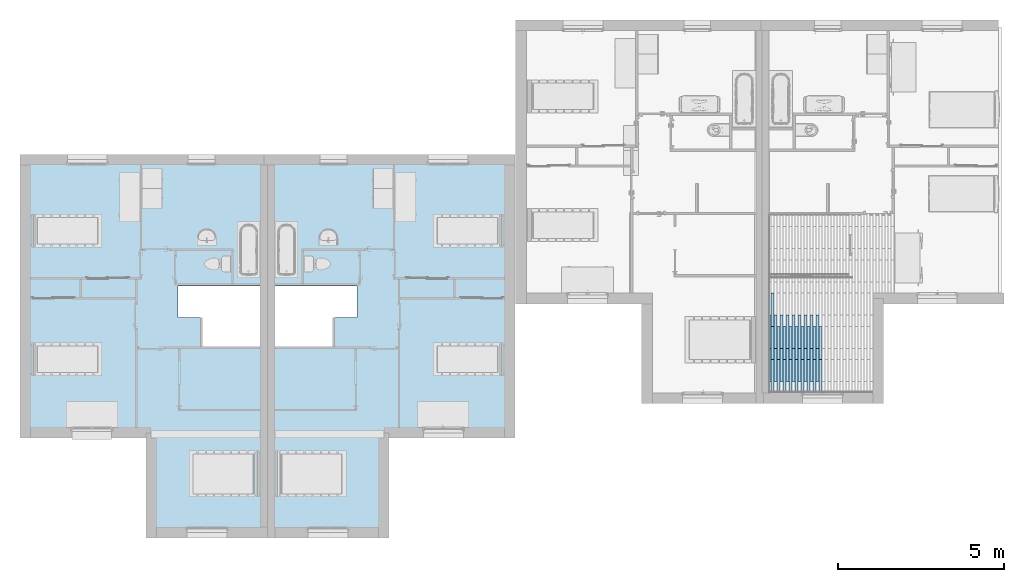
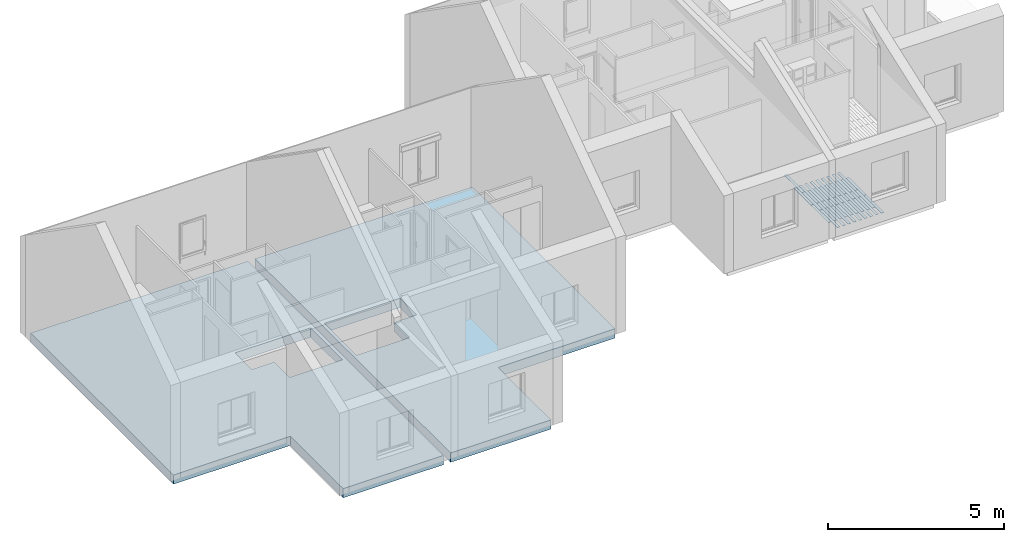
# One storey, part 1 of 61: 39 slabs, 2 openings.
"""IFC2X3 building model written with IfcOpenShell, lengths in metres."""

from ifc_helpers import new_model, entity, si_unit, converted_unit, derived_unit, direction, frame, frame_2d, origin, place, context, subcontext, project, spatial, polyline, rectangle, outline, extrude, material, layer, layer_set, layer_usage, type_object, element, save


model = new_model("IFC2X3")

# Units and contexts
model_context = context("Model", 3, precision=1e-05, world=origin(), true_north=direction((6.12303176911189e-17, 1.0)))
body_context = subcontext(model_context, "Body", "Model", "MODEL_VIEW")
ifc_project = project(units=[si_unit("LENGTHUNIT", "METRE"), si_unit("AREAUNIT", "SQUARE_METRE"), si_unit("VOLUMEUNIT", "CUBIC_METRE"), converted_unit("PLANEANGLEUNIT", "DEGREE", entity("IfcRatioMeasure", 0.0174532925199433), si_unit("PLANEANGLEUNIT", "RADIAN"), dimensions=[0, 0, 0, 0, 0, 0, 0]), si_unit("MASSUNIT", "GRAM", prefix="KILO"), derived_unit("MASSDENSITYUNIT", [(si_unit("MASSUNIT", "GRAM", prefix="KILO"), 1), (si_unit("LENGTHUNIT", "METRE"), -3)]), si_unit("TIMEUNIT", "SECOND"), si_unit("FREQUENCYUNIT", "HERTZ"), si_unit("THERMODYNAMICTEMPERATUREUNIT", "DEGREE_CELSIUS"), derived_unit("THERMALTRANSMITTANCEUNIT", [(si_unit("MASSUNIT", "GRAM", prefix="KILO"), 1), (si_unit("THERMODYNAMICTEMPERATUREUNIT", "KELVIN"), -1), (si_unit("TIMEUNIT", "SECOND"), -3)]), derived_unit("VOLUMETRICFLOWRATEUNIT", [(si_unit("LENGTHUNIT", "METRE"), 3), (si_unit("TIMEUNIT", "SECOND"), -1)]), si_unit("ELECTRICCURRENTUNIT", "AMPERE"), si_unit("ELECTRICVOLTAGEUNIT", "VOLT"), si_unit("POWERUNIT", "WATT"), si_unit("FORCEUNIT", "NEWTON", prefix="KILO"), si_unit("ILLUMINANCEUNIT", "LUX"), si_unit("LUMINOUSFLUXUNIT", "LUMEN"), si_unit("LUMINOUSINTENSITYUNIT", "CANDELA"), derived_unit("USERDEFINED", [(si_unit("MASSUNIT", "GRAM", prefix="KILO"), -1), (si_unit("LENGTHUNIT", "METRE"), -2), (si_unit("TIMEUNIT", "SECOND"), 3), (si_unit("LUMINOUSFLUXUNIT", "LUMEN"), 1)]), derived_unit("LINEARVELOCITYUNIT", [(si_unit("LENGTHUNIT", "METRE"), 1), (si_unit("TIMEUNIT", "SECOND"), -1)]), si_unit("PRESSUREUNIT", "PASCAL"), derived_unit("USERDEFINED", [(si_unit("LENGTHUNIT", "METRE"), -2), (si_unit("MASSUNIT", "GRAM", prefix="KILO"), 1), (si_unit("TIMEUNIT", "SECOND"), -2)])], contexts=[model_context])

# Site, building, storey
site_placement = place(None, origin())
site = spatial("IfcSite", under=ifc_project, at=site_placement, Name="Surface", CompositionType="ELEMENT")
building_placement = place(site_placement, origin())
building = spatial("IfcBuilding", under=site, at=building_placement, CompositionType="ELEMENT")
storey_placement = place(building_placement, frame((0.0, 0.0, 2.82)))
storey = spatial("IfcBuildingStorey", under=building, at=storey_placement, Name="ETAGE", CompositionType="ELEMENT", Elevation=2.82)

# Slab, opening
ifc_material_1 = material(Name="Béton")
ifc_layer_1 = layer(ifc_material_1, 0.2)
ifc_material_2 = material(Name="Isolant")
ifc_layer_2 = layer(ifc_material_2, 0.1)
ifc_material_3 = material(Name="Plastique - Blanc")
ifc_layer_3 = layer(ifc_material_3, 0.02)
ifc_layer_set_1 = layer_set([ifc_layer_1, ifc_layer_2, ifc_layer_3], Name="Sol:Dalle Béton - 20 cm  + FAUX PLAFOND")
ifc_layer_usage_1 = layer_usage(ifc_layer_set_1, "AXIS3", "POSITIVE", 0.0)
slab_type_1 = type_object("IfcSlabType", Name="Sol:Dalle Béton - 20 cm  + FAUX PLAFOND", PredefinedType="FLOOR", material=ifc_layer_set_1)
slab_1_placement = place(storey_placement, frame((68.9546263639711, 77.1177566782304, -0.3)))
slab_1 = element("IfcSlab", 1, at=slab_1_placement, inside=storey, type_object=slab_type_1, material=ifc_layer_usage_1, Name="Sol:Dalle Béton - 20 cm  + FAUX PLAFOND", ObjectType="Sol:Dalle Béton - 20 cm  + FAUX PLAFOND", PredefinedType="FLOOR", context=body_context, shape_type="SweptSolid", body=[
    extrude(outline(polyline([(-3.55413147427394, 5.545), (-3.55413147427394, -5.545), (-0.27413147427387, -5.54499999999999), (-0.27413147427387, -2.55499999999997), (3.55413147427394, -2.55499999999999), (3.55413147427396, 5.545), (-3.55413147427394, 5.545)])), frame((3.55413147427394, 5.545, 0.32)), (0.0, 0.0, -1.0), 0.32),
])
opening_1_placement = place(storey_placement, frame((68.9546263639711, 77.1177566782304, -0.3)))
element("IfcOpeningElement", 2, at=opening_1_placement, cuts=slab_1, ObjectType="Opening", context=body_context, shape_type="SweptSolid", body=[
    extrude(outline(polyline([(3.44496571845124, 1.7966805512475), (0.977465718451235, 1.7966805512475), (0.977465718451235, 0.852480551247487), (1.70746571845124, 0.852480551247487), (1.70746571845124, -0.0199999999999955), (3.44496571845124, -0.0199999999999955), (3.44496571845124, 1.7966805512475)])), frame((3.55413147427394, 5.545, 0.32), z_axis=(0.0, 0.0, -1.0), x_axis=(-1.0, 0.0, 0.0)), (0.0, 0.0, 1.0), 0.32),
])

ifc_layer_usage_2 = layer_usage(ifc_layer_set_1, "AXIS3", "POSITIVE", 0.0)
slab_type_2 = type_object("IfcSlabType", Name="Sol:Dalle Béton - 20 cm  + FAUX PLAFOND", PredefinedType="FLOOR", material=ifc_layer_set_1)
slab_2_placement = place(storey_placement, frame((61.6063634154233, 77.1177566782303, -0.3)))
slab_2 = element("IfcSlab", 3, at=slab_2_placement, inside=storey, type_object=slab_type_2, material=ifc_layer_usage_2, Name="Sol:Dalle Béton - 20 cm  + FAUX PLAFOND", ObjectType="Sol:Dalle Béton - 20 cm  + FAUX PLAFOND", PredefinedType="FLOOR", context=body_context, shape_type="SweptSolid", body=[
    extrude(outline(polyline([(3.55413147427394, 5.545), (-3.55413147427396, 5.545), (-3.55413147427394, -2.55499999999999), (0.27413147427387, -2.55499999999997), (0.27413147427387, -5.54499999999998), (3.55413147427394, -5.545), (3.55413147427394, 5.545)])), frame((3.55413147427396, 5.545, 0.32)), (0.0, 0.0, -1.0), 0.32),
])
opening_2_placement = place(storey_placement, frame((61.6063634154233, 77.1177566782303, -0.3)))
element("IfcOpeningElement", 4, at=opening_2_placement, cuts=slab_2, ObjectType="Opening", context=body_context, shape_type="SweptSolid", body=[
    extrude(outline(polyline([(-3.44496571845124, 1.7966805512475), (-3.44496571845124, -0.0199999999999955), (-1.70746571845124, -0.0199999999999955), (-1.70746571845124, 0.852480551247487), (-0.977465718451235, 0.852480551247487), (-0.977465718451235, 1.7966805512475), (-3.44496571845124, 1.7966805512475)])), frame((3.55413147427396, 5.545, 0.32), z_axis=(0.0, 0.0, -1.0), x_axis=(-1.0, 0.0, 0.0)), (0.0, 0.0, 1.0), 0.32),
])

# Slabs
ifc_material_4 = material(Name="PARQUET BAMBOU")
ifc_layer_4 = layer(ifc_material_4, 0.01)
ifc_layer_set_2 = layer_set([ifc_layer_4], Name="Sol:LAME DE BAMBOU")
ifc_layer_usage_3 = layer_usage(ifc_layer_set_2, "AXIS3", "POSITIVE", 0.0)
slab_type_3 = type_object("IfcSlabType", Name="Sol:LAME DE BAMBOU", PredefinedType="FLOOR", material=ifc_layer_set_2)
slab_3_placement = place(storey_placement, origin())
element("IfcSlab", 5, at=slab_3_placement, inside=storey, type_object=slab_type_3, material=ifc_layer_usage_3, Name="Sol:LAME DE BAMBOU", ObjectType="Sol:LAME DE BAMBOU", PredefinedType="FLOOR", context=body_context, shape_type="SweptSolid", body=[
    extrude(rectangle(XDim=0.999999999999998, YDim=0.0899999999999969, at=frame_2d((8.68749516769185e-15, 8.66320903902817e-15), x_axis=(1.0, 0.0))), frame((84.0360898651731, 81.7475239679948, 0.05), z_axis=(0.0, 0.0, -1.0), x_axis=(0.0, 1.0, 0.0)), (0.0, 0.0, 1.0), 0.00999999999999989),
])
ifc_layer_usage_4 = layer_usage(ifc_layer_set_2, "AXIS3", "POSITIVE", 0.0)
slab_type_4 = type_object("IfcSlabType", Name="Sol:LAME DE BAMBOU", PredefinedType="FLOOR", material=ifc_layer_set_2)
slab_4_placement = place(storey_placement, origin())
element("IfcSlab", 6, at=slab_4_placement, inside=storey, type_object=slab_type_4, material=ifc_layer_usage_4, Name="Sol:LAME DE BAMBOU", ObjectType="Sol:LAME DE BAMBOU", PredefinedType="FLOOR", context=body_context, shape_type="SweptSolid", body=[
    extrude(rectangle(XDim=0.999999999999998, YDim=0.0899999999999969, at=frame_2d((-8.68749516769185e-15, 8.66320903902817e-15), x_axis=(1.0, 0.0))), frame((84.0360898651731, 82.7475239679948, 0.05), z_axis=(0.0, 0.0, -1.0), x_axis=(0.0, 1.0, 0.0)), (0.0, 0.0, 1.0), 0.00999999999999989),
])
ifc_layer_usage_5 = layer_usage(ifc_layer_set_2, "AXIS3", "POSITIVE", 0.0)
slab_type_5 = type_object("IfcSlabType", Name="Sol:LAME DE BAMBOU", PredefinedType="FLOOR", material=ifc_layer_set_2)
slab_5_placement = place(storey_placement, origin())
element("IfcSlab", 7, at=slab_5_placement, inside=storey, type_object=slab_type_5, material=ifc_layer_usage_5, Name="Sol:LAME DE BAMBOU", ObjectType="Sol:LAME DE BAMBOU", PredefinedType="FLOOR", context=body_context, shape_type="SweptSolid", body=[
    extrude(rectangle(XDim=0.999999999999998, YDim=0.0899999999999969, at=frame_2d((8.68749516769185e-15, 8.66320903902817e-15), x_axis=(1.0, 0.0))), frame((84.0360898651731, 83.7475239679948, 0.05), z_axis=(0.0, 0.0, -1.0), x_axis=(0.0, 1.0, 0.0)), (0.0, 0.0, 1.0), 0.00999999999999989),
])
ifc_layer_usage_6 = layer_usage(ifc_layer_set_2, "AXIS3", "POSITIVE", 0.0)
slab_type_6 = type_object("IfcSlabType", Name="Sol:LAME DE BAMBOU", PredefinedType="FLOOR", material=ifc_layer_set_2)
slab_6_placement = place(storey_placement, origin())
element("IfcSlab", 8, at=slab_6_placement, inside=storey, type_object=slab_type_6, material=ifc_layer_usage_6, Name="Sol:LAME DE BAMBOU", ObjectType="Sol:LAME DE BAMBOU", PredefinedType="FLOOR", context=body_context, shape_type="SweptSolid", body=[
    extrude(rectangle(XDim=0.999999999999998, YDim=0.0899999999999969, at=frame_2d((8.68749516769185e-15, 8.66320903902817e-15), x_axis=(1.0, 0.0))), frame((84.1260898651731, 82.0875239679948, 0.05), z_axis=(0.0, 0.0, -1.0), x_axis=(0.0, 1.0, 0.0)), (0.0, 0.0, 1.0), 0.00999999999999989),
])
ifc_layer_usage_7 = layer_usage(ifc_layer_set_2, "AXIS3", "POSITIVE", 0.0)
slab_type_7 = type_object("IfcSlabType", Name="Sol:LAME DE BAMBOU", PredefinedType="FLOOR", material=ifc_layer_set_2)
slab_7_placement = place(storey_placement, origin())
element("IfcSlab", 9, at=slab_7_placement, inside=storey, type_object=slab_type_7, material=ifc_layer_usage_7, Name="Sol:LAME DE BAMBOU", ObjectType="Sol:LAME DE BAMBOU", PredefinedType="FLOOR", context=body_context, shape_type="SweptSolid", body=[
    extrude(rectangle(XDim=0.999999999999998, YDim=0.0899999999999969, at=frame_2d((-8.68749516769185e-15, 8.66320903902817e-15), x_axis=(1.0, 0.0))), frame((84.1260898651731, 83.0875239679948, 0.05), z_axis=(0.0, 0.0, -1.0), x_axis=(0.0, 1.0, 0.0)), (0.0, 0.0, 1.0), 0.00999999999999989),
])
ifc_layer_usage_8 = layer_usage(ifc_layer_set_2, "AXIS3", "POSITIVE", 0.0)
slab_type_8 = type_object("IfcSlabType", Name="Sol:LAME DE BAMBOU", PredefinedType="FLOOR", material=ifc_layer_set_2)
slab_8_placement = place(storey_placement, origin())
element("IfcSlab", 10, at=slab_8_placement, inside=storey, type_object=slab_type_8, material=ifc_layer_usage_8, Name="Sol:LAME DE BAMBOU", ObjectType="Sol:LAME DE BAMBOU", PredefinedType="FLOOR", context=body_context, shape_type="SweptSolid", body=[
    extrude(rectangle(XDim=0.999999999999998, YDim=0.0899999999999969, at=frame_2d((8.68749516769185e-15, -8.66320903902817e-15), x_axis=(1.0, 0.0))), frame((84.2160898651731, 81.7475239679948, 0.05), z_axis=(0.0, 0.0, -1.0), x_axis=(0.0, 1.0, 0.0)), (0.0, 0.0, 1.0), 0.00999999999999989),
])
ifc_layer_usage_9 = layer_usage(ifc_layer_set_2, "AXIS3", "POSITIVE", 0.0)
slab_type_9 = type_object("IfcSlabType", Name="Sol:LAME DE BAMBOU", PredefinedType="FLOOR", material=ifc_layer_set_2)
slab_9_placement = place(storey_placement, origin())
element("IfcSlab", 11, at=slab_9_placement, inside=storey, type_object=slab_type_9, material=ifc_layer_usage_9, Name="Sol:LAME DE BAMBOU", ObjectType="Sol:LAME DE BAMBOU", PredefinedType="FLOOR", context=body_context, shape_type="SweptSolid", body=[
    extrude(rectangle(XDim=0.999999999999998, YDim=0.0899999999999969, at=frame_2d((-8.68749516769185e-15, -8.66320903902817e-15), x_axis=(1.0, 0.0))), frame((84.2160898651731, 82.7475239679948, 0.05), z_axis=(0.0, 0.0, -1.0), x_axis=(0.0, 1.0, 0.0)), (0.0, 0.0, 1.0), 0.00999999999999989),
])
ifc_layer_usage_10 = layer_usage(ifc_layer_set_2, "AXIS3", "POSITIVE", 0.0)
slab_type_10 = type_object("IfcSlabType", Name="Sol:LAME DE BAMBOU", PredefinedType="FLOOR", material=ifc_layer_set_2)
slab_10_placement = place(storey_placement, origin())
element("IfcSlab", 12, at=slab_10_placement, inside=storey, type_object=slab_type_10, material=ifc_layer_usage_10, Name="Sol:LAME DE BAMBOU", ObjectType="Sol:LAME DE BAMBOU", PredefinedType="FLOOR", context=body_context, shape_type="SweptSolid", body=[
    extrude(rectangle(XDim=0.999999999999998, YDim=0.0899999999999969, at=frame_2d((8.68749516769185e-15, 8.66320903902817e-15), x_axis=(1.0, 0.0))), frame((84.3060898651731, 82.0875239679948, 0.05), z_axis=(0.0, 0.0, -1.0), x_axis=(0.0, 1.0, 0.0)), (0.0, 0.0, 1.0), 0.00999999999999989),
])
ifc_layer_usage_11 = layer_usage(ifc_layer_set_2, "AXIS3", "POSITIVE", 0.0)
slab_type_11 = type_object("IfcSlabType", Name="Sol:LAME DE BAMBOU", PredefinedType="FLOOR", material=ifc_layer_set_2)
slab_11_placement = place(storey_placement, origin())
element("IfcSlab", 13, at=slab_11_placement, inside=storey, type_object=slab_type_11, material=ifc_layer_usage_11, Name="Sol:LAME DE BAMBOU", ObjectType="Sol:LAME DE BAMBOU", PredefinedType="FLOOR", context=body_context, shape_type="SweptSolid", body=[
    extrude(rectangle(XDim=0.999999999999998, YDim=0.0899999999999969, at=frame_2d((-8.68749516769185e-15, 8.66320903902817e-15), x_axis=(1.0, 0.0))), frame((84.3060898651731, 83.0875239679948, 0.05), z_axis=(0.0, 0.0, -1.0), x_axis=(0.0, 1.0, 0.0)), (0.0, 0.0, 1.0), 0.00999999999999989),
])
ifc_layer_usage_12 = layer_usage(ifc_layer_set_2, "AXIS3", "POSITIVE", 0.0)
slab_type_12 = type_object("IfcSlabType", Name="Sol:LAME DE BAMBOU", PredefinedType="FLOOR", material=ifc_layer_set_2)
slab_12_placement = place(storey_placement, origin())
element("IfcSlab", 14, at=slab_12_placement, inside=storey, type_object=slab_type_12, material=ifc_layer_usage_12, Name="Sol:LAME DE BAMBOU", ObjectType="Sol:LAME DE BAMBOU", PredefinedType="FLOOR", context=body_context, shape_type="SweptSolid", body=[
    extrude(rectangle(XDim=0.999999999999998, YDim=0.0899999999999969, at=frame_2d((8.68749516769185e-15, 8.66320903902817e-15), x_axis=(1.0, 0.0))), frame((84.3960898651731, 81.7475239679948, 0.05), z_axis=(0.0, 0.0, -1.0), x_axis=(0.0, 1.0, 0.0)), (0.0, 0.0, 1.0), 0.00999999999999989),
])
ifc_layer_usage_13 = layer_usage(ifc_layer_set_2, "AXIS3", "POSITIVE", 0.0)
slab_type_13 = type_object("IfcSlabType", Name="Sol:LAME DE BAMBOU", PredefinedType="FLOOR", material=ifc_layer_set_2)
slab_13_placement = place(storey_placement, origin())
element("IfcSlab", 15, at=slab_13_placement, inside=storey, type_object=slab_type_13, material=ifc_layer_usage_13, Name="Sol:LAME DE BAMBOU", ObjectType="Sol:LAME DE BAMBOU", PredefinedType="FLOOR", context=body_context, shape_type="SweptSolid", body=[
    extrude(rectangle(XDim=0.999999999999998, YDim=0.0899999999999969, at=frame_2d((-8.68749516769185e-15, 8.66320903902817e-15), x_axis=(1.0, 0.0))), frame((84.3960898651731, 82.7475239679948, 0.05), z_axis=(0.0, 0.0, -1.0), x_axis=(0.0, 1.0, 0.0)), (0.0, 0.0, 1.0), 0.00999999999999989),
])
ifc_layer_usage_14 = layer_usage(ifc_layer_set_2, "AXIS3", "POSITIVE", 0.0)
slab_type_14 = type_object("IfcSlabType", Name="Sol:LAME DE BAMBOU", PredefinedType="FLOOR", material=ifc_layer_set_2)
slab_14_placement = place(storey_placement, origin())
element("IfcSlab", 16, at=slab_14_placement, inside=storey, type_object=slab_type_14, material=ifc_layer_usage_14, Name="Sol:LAME DE BAMBOU", ObjectType="Sol:LAME DE BAMBOU", PredefinedType="FLOOR", context=body_context, shape_type="SweptSolid", body=[
    extrude(rectangle(XDim=0.999999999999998, YDim=0.0899999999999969, at=frame_2d((8.68749516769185e-15, 8.66320903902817e-15), x_axis=(1.0, 0.0))), frame((84.4860898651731, 82.0875239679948, 0.05), z_axis=(0.0, 0.0, -1.0), x_axis=(0.0, 1.0, 0.0)), (0.0, 0.0, 1.0), 0.00999999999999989),
])
ifc_layer_usage_15 = layer_usage(ifc_layer_set_2, "AXIS3", "POSITIVE", 0.0)
slab_type_15 = type_object("IfcSlabType", Name="Sol:LAME DE BAMBOU", PredefinedType="FLOOR", material=ifc_layer_set_2)
slab_15_placement = place(storey_placement, origin())
element("IfcSlab", 17, at=slab_15_placement, inside=storey, type_object=slab_type_15, material=ifc_layer_usage_15, Name="Sol:LAME DE BAMBOU", ObjectType="Sol:LAME DE BAMBOU", PredefinedType="FLOOR", context=body_context, shape_type="SweptSolid", body=[
    extrude(rectangle(XDim=0.999999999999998, YDim=0.0899999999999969, at=frame_2d((-8.68749516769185e-15, 8.66320903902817e-15), x_axis=(1.0, 0.0))), frame((84.4860898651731, 83.0875239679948, 0.05), z_axis=(0.0, 0.0, -1.0), x_axis=(0.0, 1.0, 0.0)), (0.0, 0.0, 1.0), 0.00999999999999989),
])
ifc_layer_usage_16 = layer_usage(ifc_layer_set_2, "AXIS3", "POSITIVE", 0.0)
slab_type_16 = type_object("IfcSlabType", Name="Sol:LAME DE BAMBOU", PredefinedType="FLOOR", material=ifc_layer_set_2)
slab_16_placement = place(storey_placement, origin())
element("IfcSlab", 18, at=slab_16_placement, inside=storey, type_object=slab_type_16, material=ifc_layer_usage_16, Name="Sol:LAME DE BAMBOU", ObjectType="Sol:LAME DE BAMBOU", PredefinedType="FLOOR", context=body_context, shape_type="SweptSolid", body=[
    extrude(rectangle(XDim=0.999999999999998, YDim=0.0899999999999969, at=frame_2d((8.68749516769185e-15, -8.66320903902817e-15), x_axis=(1.0, 0.0))), frame((84.5760898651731, 81.7475239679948, 0.05), z_axis=(0.0, 0.0, -1.0), x_axis=(0.0, 1.0, 0.0)), (0.0, 0.0, 1.0), 0.00999999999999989),
])
ifc_layer_usage_17 = layer_usage(ifc_layer_set_2, "AXIS3", "POSITIVE", 0.0)
slab_type_17 = type_object("IfcSlabType", Name="Sol:LAME DE BAMBOU", PredefinedType="FLOOR", material=ifc_layer_set_2)
slab_17_placement = place(storey_placement, origin())
element("IfcSlab", 19, at=slab_17_placement, inside=storey, type_object=slab_type_17, material=ifc_layer_usage_17, Name="Sol:LAME DE BAMBOU", ObjectType="Sol:LAME DE BAMBOU", PredefinedType="FLOOR", context=body_context, shape_type="SweptSolid", body=[
    extrude(rectangle(XDim=0.999999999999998, YDim=0.0899999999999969, at=frame_2d((-8.68749516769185e-15, -8.66320903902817e-15), x_axis=(1.0, 0.0))), frame((84.5760898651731, 82.7475239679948, 0.05), z_axis=(0.0, 0.0, -1.0), x_axis=(0.0, 1.0, 0.0)), (0.0, 0.0, 1.0), 0.00999999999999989),
])
ifc_layer_usage_18 = layer_usage(ifc_layer_set_2, "AXIS3", "POSITIVE", 0.0)
slab_type_18 = type_object("IfcSlabType", Name="Sol:LAME DE BAMBOU", PredefinedType="FLOOR", material=ifc_layer_set_2)
slab_18_placement = place(storey_placement, origin())
element("IfcSlab", 20, at=slab_18_placement, inside=storey, type_object=slab_type_18, material=ifc_layer_usage_18, Name="Sol:LAME DE BAMBOU", ObjectType="Sol:LAME DE BAMBOU", PredefinedType="FLOOR", context=body_context, shape_type="SweptSolid", body=[
    extrude(rectangle(XDim=0.999999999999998, YDim=0.0899999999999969, at=frame_2d((8.68749516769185e-15, 8.66320903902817e-15), x_axis=(1.0, 0.0))), frame((84.6660898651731, 82.0875239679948, 0.05), z_axis=(0.0, 0.0, -1.0), x_axis=(0.0, 1.0, 0.0)), (0.0, 0.0, 1.0), 0.00999999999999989),
])
ifc_layer_usage_19 = layer_usage(ifc_layer_set_2, "AXIS3", "POSITIVE", 0.0)
slab_type_19 = type_object("IfcSlabType", Name="Sol:LAME DE BAMBOU", PredefinedType="FLOOR", material=ifc_layer_set_2)
slab_19_placement = place(storey_placement, origin())
element("IfcSlab", 21, at=slab_19_placement, inside=storey, type_object=slab_type_19, material=ifc_layer_usage_19, Name="Sol:LAME DE BAMBOU", ObjectType="Sol:LAME DE BAMBOU", PredefinedType="FLOOR", context=body_context, shape_type="SweptSolid", body=[
    extrude(rectangle(XDim=0.999999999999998, YDim=0.0899999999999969, at=frame_2d((-8.68749516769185e-15, 8.66320903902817e-15), x_axis=(1.0, 0.0))), frame((84.6660898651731, 83.0875239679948, 0.05), z_axis=(0.0, 0.0, -1.0), x_axis=(0.0, 1.0, 0.0)), (0.0, 0.0, 1.0), 0.00999999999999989),
])
ifc_layer_usage_20 = layer_usage(ifc_layer_set_2, "AXIS3", "POSITIVE", 0.0)
slab_type_20 = type_object("IfcSlabType", Name="Sol:LAME DE BAMBOU", PredefinedType="FLOOR", material=ifc_layer_set_2)
slab_20_placement = place(storey_placement, origin())
element("IfcSlab", 22, at=slab_20_placement, inside=storey, type_object=slab_type_20, material=ifc_layer_usage_20, Name="Sol:LAME DE BAMBOU", ObjectType="Sol:LAME DE BAMBOU", PredefinedType="FLOOR", context=body_context, shape_type="SweptSolid", body=[
    extrude(rectangle(XDim=0.999999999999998, YDim=0.0899999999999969, at=frame_2d((8.68749516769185e-15, 8.66320903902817e-15), x_axis=(1.0, 0.0))), frame((84.7560898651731, 81.7475239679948, 0.05), z_axis=(0.0, 0.0, -1.0), x_axis=(0.0, 1.0, 0.0)), (0.0, 0.0, 1.0), 0.00999999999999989),
])
ifc_layer_usage_21 = layer_usage(ifc_layer_set_2, "AXIS3", "POSITIVE", 0.0)
slab_type_21 = type_object("IfcSlabType", Name="Sol:LAME DE BAMBOU", PredefinedType="FLOOR", material=ifc_layer_set_2)
slab_21_placement = place(storey_placement, origin())
element("IfcSlab", 23, at=slab_21_placement, inside=storey, type_object=slab_type_21, material=ifc_layer_usage_21, Name="Sol:LAME DE BAMBOU", ObjectType="Sol:LAME DE BAMBOU", PredefinedType="FLOOR", context=body_context, shape_type="SweptSolid", body=[
    extrude(rectangle(XDim=0.999999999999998, YDim=0.0899999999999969, at=frame_2d((-8.68749516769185e-15, 8.66320903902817e-15), x_axis=(1.0, 0.0))), frame((84.7560898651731, 82.7475239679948, 0.05), z_axis=(0.0, 0.0, -1.0), x_axis=(0.0, 1.0, 0.0)), (0.0, 0.0, 1.0), 0.00999999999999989),
])
ifc_layer_usage_22 = layer_usage(ifc_layer_set_2, "AXIS3", "POSITIVE", 0.0)
slab_type_22 = type_object("IfcSlabType", Name="Sol:LAME DE BAMBOU", PredefinedType="FLOOR", material=ifc_layer_set_2)
slab_22_placement = place(storey_placement, origin())
element("IfcSlab", 24, at=slab_22_placement, inside=storey, type_object=slab_type_22, material=ifc_layer_usage_22, Name="Sol:LAME DE BAMBOU", ObjectType="Sol:LAME DE BAMBOU", PredefinedType="FLOOR", context=body_context, shape_type="SweptSolid", body=[
    extrude(rectangle(XDim=0.999999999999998, YDim=0.0899999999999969, at=frame_2d((8.68749516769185e-15, 8.66320903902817e-15), x_axis=(1.0, 0.0))), frame((84.8460898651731, 82.0875239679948, 0.05), z_axis=(0.0, 0.0, -1.0), x_axis=(0.0, 1.0, 0.0)), (0.0, 0.0, 1.0), 0.00999999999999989),
])
ifc_layer_usage_23 = layer_usage(ifc_layer_set_2, "AXIS3", "POSITIVE", 0.0)
slab_type_23 = type_object("IfcSlabType", Name="Sol:LAME DE BAMBOU", PredefinedType="FLOOR", material=ifc_layer_set_2)
slab_23_placement = place(storey_placement, origin())
element("IfcSlab", 25, at=slab_23_placement, inside=storey, type_object=slab_type_23, material=ifc_layer_usage_23, Name="Sol:LAME DE BAMBOU", ObjectType="Sol:LAME DE BAMBOU", PredefinedType="FLOOR", context=body_context, shape_type="SweptSolid", body=[
    extrude(rectangle(XDim=0.999999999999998, YDim=0.0899999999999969, at=frame_2d((-8.68749516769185e-15, 8.66320903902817e-15), x_axis=(1.0, 0.0))), frame((84.8460898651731, 83.0875239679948, 0.05), z_axis=(0.0, 0.0, -1.0), x_axis=(0.0, 1.0, 0.0)), (0.0, 0.0, 1.0), 0.00999999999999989),
])
ifc_layer_usage_24 = layer_usage(ifc_layer_set_2, "AXIS3", "POSITIVE", 0.0)
slab_type_24 = type_object("IfcSlabType", Name="Sol:LAME DE BAMBOU", PredefinedType="FLOOR", material=ifc_layer_set_2)
slab_24_placement = place(storey_placement, origin())
element("IfcSlab", 26, at=slab_24_placement, inside=storey, type_object=slab_type_24, material=ifc_layer_usage_24, Name="Sol:LAME DE BAMBOU", ObjectType="Sol:LAME DE BAMBOU", PredefinedType="FLOOR", context=body_context, shape_type="SweptSolid", body=[
    extrude(rectangle(XDim=0.999999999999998, YDim=0.0899999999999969, at=frame_2d((8.68749516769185e-15, -8.66320903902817e-15), x_axis=(1.0, 0.0))), frame((84.9360898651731, 81.7475239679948, 0.05), z_axis=(0.0, 0.0, -1.0), x_axis=(0.0, 1.0, 0.0)), (0.0, 0.0, 1.0), 0.00999999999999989),
])
ifc_layer_usage_25 = layer_usage(ifc_layer_set_2, "AXIS3", "POSITIVE", 0.0)
slab_type_25 = type_object("IfcSlabType", Name="Sol:LAME DE BAMBOU", PredefinedType="FLOOR", material=ifc_layer_set_2)
slab_25_placement = place(storey_placement, origin())
element("IfcSlab", 27, at=slab_25_placement, inside=storey, type_object=slab_type_25, material=ifc_layer_usage_25, Name="Sol:LAME DE BAMBOU", ObjectType="Sol:LAME DE BAMBOU", PredefinedType="FLOOR", context=body_context, shape_type="SweptSolid", body=[
    extrude(rectangle(XDim=0.999999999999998, YDim=0.0899999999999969, at=frame_2d((-8.68749516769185e-15, -8.66320903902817e-15), x_axis=(1.0, 0.0))), frame((84.9360898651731, 82.7475239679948, 0.05), z_axis=(0.0, 0.0, -1.0), x_axis=(0.0, 1.0, 0.0)), (0.0, 0.0, 1.0), 0.00999999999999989),
])
ifc_layer_usage_26 = layer_usage(ifc_layer_set_2, "AXIS3", "POSITIVE", 0.0)
slab_type_26 = type_object("IfcSlabType", Name="Sol:LAME DE BAMBOU", PredefinedType="FLOOR", material=ifc_layer_set_2)
slab_26_placement = place(storey_placement, origin())
element("IfcSlab", 28, at=slab_26_placement, inside=storey, type_object=slab_type_26, material=ifc_layer_usage_26, Name="Sol:LAME DE BAMBOU", ObjectType="Sol:LAME DE BAMBOU", PredefinedType="FLOOR", context=body_context, shape_type="SweptSolid", body=[
    extrude(rectangle(XDim=0.999999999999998, YDim=0.0899999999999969, at=frame_2d((8.68749516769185e-15, 8.66320903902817e-15), x_axis=(1.0, 0.0))), frame((85.026089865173, 82.0875239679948, 0.05), z_axis=(0.0, 0.0, -1.0), x_axis=(0.0, 1.0, 0.0)), (0.0, 0.0, 1.0), 0.00999999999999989),
])
ifc_layer_usage_27 = layer_usage(ifc_layer_set_2, "AXIS3", "POSITIVE", 0.0)
slab_type_27 = type_object("IfcSlabType", Name="Sol:LAME DE BAMBOU", PredefinedType="FLOOR", material=ifc_layer_set_2)
slab_27_placement = place(storey_placement, origin())
element("IfcSlab", 29, at=slab_27_placement, inside=storey, type_object=slab_type_27, material=ifc_layer_usage_27, Name="Sol:LAME DE BAMBOU", ObjectType="Sol:LAME DE BAMBOU", PredefinedType="FLOOR", context=body_context, shape_type="SweptSolid", body=[
    extrude(rectangle(XDim=0.999999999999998, YDim=0.0899999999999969, at=frame_2d((-8.68749516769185e-15, 8.66320903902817e-15), x_axis=(1.0, 0.0))), frame((85.026089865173, 83.0875239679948, 0.05), z_axis=(0.0, 0.0, -1.0), x_axis=(0.0, 1.0, 0.0)), (0.0, 0.0, 1.0), 0.00999999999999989),
])
ifc_layer_usage_28 = layer_usage(ifc_layer_set_2, "AXIS3", "POSITIVE", 0.0)
slab_type_28 = type_object("IfcSlabType", Name="Sol:LAME DE BAMBOU", PredefinedType="FLOOR", material=ifc_layer_set_2)
slab_28_placement = place(storey_placement, origin())
element("IfcSlab", 30, at=slab_28_placement, inside=storey, type_object=slab_type_28, material=ifc_layer_usage_28, Name="Sol:LAME DE BAMBOU", ObjectType="Sol:LAME DE BAMBOU", PredefinedType="FLOOR", context=body_context, shape_type="SweptSolid", body=[
    extrude(rectangle(XDim=0.999999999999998, YDim=0.0899999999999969, at=frame_2d((8.68749516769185e-15, 8.66320903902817e-15), x_axis=(1.0, 0.0))), frame((85.116089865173, 81.7475239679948, 0.05), z_axis=(0.0, 0.0, -1.0), x_axis=(0.0, 1.0, 0.0)), (0.0, 0.0, 1.0), 0.00999999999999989),
])
ifc_layer_usage_29 = layer_usage(ifc_layer_set_2, "AXIS3", "POSITIVE", 0.0)
slab_type_29 = type_object("IfcSlabType", Name="Sol:LAME DE BAMBOU", PredefinedType="FLOOR", material=ifc_layer_set_2)
slab_29_placement = place(storey_placement, origin())
element("IfcSlab", 31, at=slab_29_placement, inside=storey, type_object=slab_type_29, material=ifc_layer_usage_29, Name="Sol:LAME DE BAMBOU", ObjectType="Sol:LAME DE BAMBOU", PredefinedType="FLOOR", context=body_context, shape_type="SweptSolid", body=[
    extrude(rectangle(XDim=0.999999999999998, YDim=0.0899999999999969, at=frame_2d((-8.68749516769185e-15, 8.66320903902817e-15), x_axis=(1.0, 0.0))), frame((85.116089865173, 82.7475239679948, 0.05), z_axis=(0.0, 0.0, -1.0), x_axis=(0.0, 1.0, 0.0)), (0.0, 0.0, 1.0), 0.00999999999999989),
])
ifc_layer_usage_30 = layer_usage(ifc_layer_set_2, "AXIS3", "POSITIVE", 0.0)
slab_type_30 = type_object("IfcSlabType", Name="Sol:LAME DE BAMBOU", PredefinedType="FLOOR", material=ifc_layer_set_2)
slab_30_placement = place(storey_placement, origin())
element("IfcSlab", 32, at=slab_30_placement, inside=storey, type_object=slab_type_30, material=ifc_layer_usage_30, Name="Sol:LAME DE BAMBOU", ObjectType="Sol:LAME DE BAMBOU", PredefinedType="FLOOR", context=body_context, shape_type="SweptSolid", body=[
    extrude(rectangle(XDim=0.999999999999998, YDim=0.0899999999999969, at=frame_2d((8.68749516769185e-15, 8.66320903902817e-15), x_axis=(1.0, 0.0))), frame((85.206089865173, 82.0875239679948, 0.05), z_axis=(0.0, 0.0, -1.0), x_axis=(0.0, 1.0, 0.0)), (0.0, 0.0, 1.0), 0.00999999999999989),
])
ifc_layer_usage_31 = layer_usage(ifc_layer_set_2, "AXIS3", "POSITIVE", 0.0)
slab_type_31 = type_object("IfcSlabType", Name="Sol:LAME DE BAMBOU", PredefinedType="FLOOR", material=ifc_layer_set_2)
slab_31_placement = place(storey_placement, origin())
element("IfcSlab", 33, at=slab_31_placement, inside=storey, type_object=slab_type_31, material=ifc_layer_usage_31, Name="Sol:LAME DE BAMBOU", ObjectType="Sol:LAME DE BAMBOU", PredefinedType="FLOOR", context=body_context, shape_type="SweptSolid", body=[
    extrude(rectangle(XDim=0.999999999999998, YDim=0.0899999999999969, at=frame_2d((-8.68749516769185e-15, 8.66320903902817e-15), x_axis=(1.0, 0.0))), frame((85.206089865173, 83.0875239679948, 0.05), z_axis=(0.0, 0.0, -1.0), x_axis=(0.0, 1.0, 0.0)), (0.0, 0.0, 1.0), 0.00999999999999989),
])
ifc_layer_usage_32 = layer_usage(ifc_layer_set_2, "AXIS3", "POSITIVE", 0.0)
slab_type_32 = type_object("IfcSlabType", Name="Sol:LAME DE BAMBOU", PredefinedType="FLOOR", material=ifc_layer_set_2)
slab_32_placement = place(storey_placement, origin())
element("IfcSlab", 34, at=slab_32_placement, inside=storey, type_object=slab_type_32, material=ifc_layer_usage_32, Name="Sol:LAME DE BAMBOU", ObjectType="Sol:LAME DE BAMBOU", PredefinedType="FLOOR", context=body_context, shape_type="SweptSolid", body=[
    extrude(rectangle(XDim=0.999999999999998, YDim=0.0899999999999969, at=frame_2d((8.68749516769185e-15, -8.66320903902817e-15), x_axis=(1.0, 0.0))), frame((85.2960898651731, 81.7475239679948, 0.05), z_axis=(0.0, 0.0, -1.0), x_axis=(0.0, 1.0, 0.0)), (0.0, 0.0, 1.0), 0.00999999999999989),
])
ifc_layer_usage_33 = layer_usage(ifc_layer_set_2, "AXIS3", "POSITIVE", 0.0)
slab_type_33 = type_object("IfcSlabType", Name="Sol:LAME DE BAMBOU", PredefinedType="FLOOR", material=ifc_layer_set_2)
slab_33_placement = place(storey_placement, origin())
element("IfcSlab", 35, at=slab_33_placement, inside=storey, type_object=slab_type_33, material=ifc_layer_usage_33, Name="Sol:LAME DE BAMBOU", ObjectType="Sol:LAME DE BAMBOU", PredefinedType="FLOOR", context=body_context, shape_type="SweptSolid", body=[
    extrude(rectangle(XDim=0.999999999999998, YDim=0.0899999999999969, at=frame_2d((-8.68749516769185e-15, -8.66320903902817e-15), x_axis=(1.0, 0.0))), frame((85.2960898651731, 82.7475239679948, 0.05), z_axis=(0.0, 0.0, -1.0), x_axis=(0.0, 1.0, 0.0)), (0.0, 0.0, 1.0), 0.00999999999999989),
])
ifc_layer_usage_34 = layer_usage(ifc_layer_set_2, "AXIS3", "POSITIVE", 0.0)
slab_type_34 = type_object("IfcSlabType", Name="Sol:LAME DE BAMBOU", PredefinedType="FLOOR", material=ifc_layer_set_2)
slab_34_placement = place(storey_placement, origin())
element("IfcSlab", 36, at=slab_34_placement, inside=storey, type_object=slab_type_34, material=ifc_layer_usage_34, Name="Sol:LAME DE BAMBOU", ObjectType="Sol:LAME DE BAMBOU", PredefinedType="FLOOR", context=body_context, shape_type="SweptSolid", body=[
    extrude(rectangle(XDim=0.999999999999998, YDim=0.0899999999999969, at=frame_2d((8.68749516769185e-15, 8.66320903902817e-15), x_axis=(1.0, 0.0))), frame((85.386089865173, 82.0875239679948, 0.05), z_axis=(0.0, 0.0, -1.0), x_axis=(0.0, 1.0, 0.0)), (0.0, 0.0, 1.0), 0.00999999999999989),
])
ifc_layer_usage_35 = layer_usage(ifc_layer_set_2, "AXIS3", "POSITIVE", 0.0)
slab_type_35 = type_object("IfcSlabType", Name="Sol:LAME DE BAMBOU", PredefinedType="FLOOR", material=ifc_layer_set_2)
slab_35_placement = place(storey_placement, origin())
element("IfcSlab", 37, at=slab_35_placement, inside=storey, type_object=slab_type_35, material=ifc_layer_usage_35, Name="Sol:LAME DE BAMBOU", ObjectType="Sol:LAME DE BAMBOU", PredefinedType="FLOOR", context=body_context, shape_type="SweptSolid", body=[
    extrude(rectangle(XDim=0.999999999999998, YDim=0.0899999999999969, at=frame_2d((-8.68749516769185e-15, 8.66320903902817e-15), x_axis=(1.0, 0.0))), frame((85.386089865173, 83.0875239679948, 0.05), z_axis=(0.0, 0.0, -1.0), x_axis=(0.0, 1.0, 0.0)), (0.0, 0.0, 1.0), 0.00999999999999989),
])
ifc_layer_usage_36 = layer_usage(ifc_layer_set_2, "AXIS3", "POSITIVE", 0.0)
slab_type_36 = type_object("IfcSlabType", Name="Sol:LAME DE BAMBOU", PredefinedType="FLOOR", material=ifc_layer_set_2)
slab_36_placement = place(storey_placement, origin())
element("IfcSlab", 38, at=slab_36_placement, inside=storey, type_object=slab_type_36, material=ifc_layer_usage_36, Name="Sol:LAME DE BAMBOU", ObjectType="Sol:LAME DE BAMBOU", PredefinedType="FLOOR", context=body_context, shape_type="SweptSolid", body=[
    extrude(rectangle(XDim=0.999999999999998, YDim=0.0899999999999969, at=frame_2d((8.68749516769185e-15, 8.66320903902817e-15), x_axis=(1.0, 0.0))), frame((85.476089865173, 81.7475239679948, 0.05), z_axis=(0.0, 0.0, -1.0), x_axis=(0.0, 1.0, 0.0)), (0.0, 0.0, 1.0), 0.00999999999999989),
])
ifc_layer_usage_37 = layer_usage(ifc_layer_set_2, "AXIS3", "POSITIVE", 0.0)
slab_type_37 = type_object("IfcSlabType", Name="Sol:LAME DE BAMBOU", PredefinedType="FLOOR", material=ifc_layer_set_2)
slab_37_placement = place(storey_placement, origin())
element("IfcSlab", 39, at=slab_37_placement, inside=storey, type_object=slab_type_37, material=ifc_layer_usage_37, Name="Sol:LAME DE BAMBOU", ObjectType="Sol:LAME DE BAMBOU", PredefinedType="FLOOR", context=body_context, shape_type="SweptSolid", body=[
    extrude(rectangle(XDim=0.999999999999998, YDim=0.0899999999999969, at=frame_2d((-8.68749516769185e-15, 8.66320903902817e-15), x_axis=(1.0, 0.0))), frame((85.476089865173, 82.7475239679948, 0.05), z_axis=(0.0, 0.0, -1.0), x_axis=(0.0, 1.0, 0.0)), (0.0, 0.0, 1.0), 0.00999999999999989),
])
ifc_layer_usage_38 = layer_usage(ifc_layer_set_2, "AXIS3", "POSITIVE", 0.0)
slab_type_38 = type_object("IfcSlabType", Name="Sol:LAME DE BAMBOU", PredefinedType="FLOOR", material=ifc_layer_set_2)
slab_38_placement = place(storey_placement, origin())
element("IfcSlab", 40, at=slab_38_placement, inside=storey, type_object=slab_type_38, material=ifc_layer_usage_38, Name="Sol:LAME DE BAMBOU", ObjectType="Sol:LAME DE BAMBOU", PredefinedType="FLOOR", context=body_context, shape_type="SweptSolid", body=[
    extrude(rectangle(XDim=0.999999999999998, YDim=0.0899999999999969, at=frame_2d((8.68749516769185e-15, 8.66320903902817e-15), x_axis=(1.0, 0.0))), frame((83.9460898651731, 82.0875239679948, 0.05), z_axis=(0.0, 0.0, -1.0), x_axis=(0.0, 1.0, 0.0)), (0.0, 0.0, 1.0), 0.00999999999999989),
])
ifc_layer_usage_39 = layer_usage(ifc_layer_set_2, "AXIS3", "POSITIVE", 0.0)
slab_type_39 = type_object("IfcSlabType", Name="Sol:LAME DE BAMBOU", PredefinedType="FLOOR", material=ifc_layer_set_2)
slab_39_placement = place(storey_placement, origin())
element("IfcSlab", 41, at=slab_39_placement, inside=storey, type_object=slab_type_39, material=ifc_layer_usage_39, Name="Sol:LAME DE BAMBOU", ObjectType="Sol:LAME DE BAMBOU", PredefinedType="FLOOR", context=body_context, shape_type="SweptSolid", body=[
    extrude(rectangle(XDim=0.999999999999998, YDim=0.0899999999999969, at=frame_2d((-8.68749516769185e-15, 8.66320903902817e-15), x_axis=(1.0, 0.0))), frame((83.9460898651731, 83.0875239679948, 0.05), z_axis=(0.0, 0.0, -1.0), x_axis=(0.0, 1.0, 0.0)), (0.0, 0.0, 1.0), 0.00999999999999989),
])

save(model, "model.ifc")
